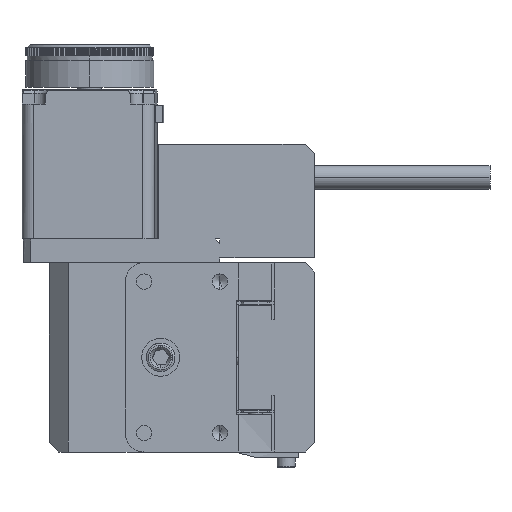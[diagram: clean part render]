
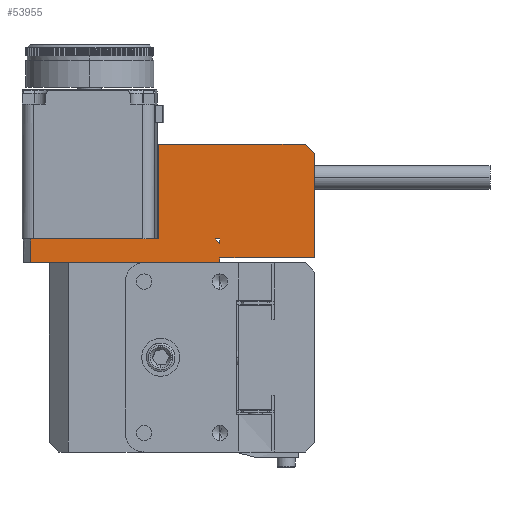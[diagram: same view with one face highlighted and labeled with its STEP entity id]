
A CAD part, front view. The second image highlights one B-rep face of the part: STEP entity #53955.
In plain terms, the highlighted planar face has unit normal (0, -1, 0).
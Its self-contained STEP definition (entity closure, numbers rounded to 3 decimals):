
#11598 = CARTESIAN_POINT ( 'NONE',  ( -23.855, 0.932, 45. ) ) ;
#12141 = CARTESIAN_POINT ( 'NONE',  ( -11.296, 0.932, 45. ) ) ;
#12597 = CARTESIAN_POINT ( 'NONE',  ( -36.172, 0.932, 45. ) ) ;
#12644 = DIRECTION ( 'NONE',  ( 1., 0., 0. ) ) ;
#12645 = VECTOR ( 'NONE', #12644, 1000. ) ;
#12646 = CARTESIAN_POINT ( 'NONE',  ( 7.328, 0.932, 45. ) ) ;
#12647 = LINE ( 'NONE', #12646, #12645 ) ;
#12666 = CARTESIAN_POINT ( 'NONE',  ( 2.828, 0.932, 45. ) ) ;
#12667 = DIRECTION ( 'NONE',  ( -1., 0., 0. ) ) ;
#12668 = VECTOR ( 'NONE', #12667, 1000. ) ;
#12669 = CARTESIAN_POINT ( 'NONE',  ( 7.328, 0.932, 45. ) ) ;
#12670 = LINE ( 'NONE', #12669, #12668 ) ;
#12687 = CARTESIAN_POINT ( 'NONE',  ( 3.828, 0.932, 44. ) ) ;
#12688 = CARTESIAN_POINT ( 'NONE',  ( 3.828, 0.932, 45. ) ) ;
#12694 = DIRECTION ( 'NONE',  ( 0., 0., 1. ) ) ;
#12695 = VECTOR ( 'NONE', #12694, 1000. ) ;
#12696 = CARTESIAN_POINT ( 'NONE',  ( 3.828, 0.932, 53. ) ) ;
#12697 = LINE ( 'NONE', #12696, #12695 ) ;
#12709 = DIRECTION ( 'NONE',  ( 1., 0., 0. ) ) ;
#12710 = VECTOR ( 'NONE', #12709, 1000. ) ;
#12711 = CARTESIAN_POINT ( 'NONE',  ( 7.328, 0.932, 45. ) ) ;
#12712 = LINE ( 'NONE', #12711, #12710 ) ;
#12977 = DIRECTION ( 'NONE',  ( 0., 0., 1. ) ) ;
#12978 = VECTOR ( 'NONE', #12977, 1000. ) ;
#12979 = CARTESIAN_POINT ( 'NONE',  ( -36.172, 0.932, 53. ) ) ;
#12980 = LINE ( 'NONE', #12979, #12978 ) ;
#12981 = CARTESIAN_POINT ( 'NONE',  ( -36.172, 0.932, 40. ) ) ;
#13109 = CARTESIAN_POINT ( 'NONE',  ( -9.172, 0.932, 45. ) ) ;
#13110 = DIRECTION ( 'NONE',  ( 1., 0., 0. ) ) ;
#13111 = VECTOR ( 'NONE', #13110, 1000. ) ;
#13112 = CARTESIAN_POINT ( 'NONE',  ( 7.328, 0.932, 45. ) ) ;
#13118 = LINE ( 'NONE', #13112, #13111 ) ;
#13347 = DIRECTION ( 'NONE',  ( 0., 0., 1. ) ) ;
#13348 = DIRECTION ( 'NONE',  ( 0., 1., 0. ) ) ;
#13349 = CARTESIAN_POINT ( 'NONE',  ( 7.328, 0.932, 53. ) ) ;
#13350 = AXIS2_PLACEMENT_3D ( 'NONE', #13349, #13348, #13347 ) ;
#13351 = PLANE ( 'NONE',  #13350 ) ;
#13352 = FACE_OUTER_BOUND ( 'NONE', #53967, .T. ) ;
#13353 = FACE_BOUND ( 'NONE', #53956, .T. ) ;
#13354 = DIRECTION ( 'NONE',  ( 0., 0., -1. ) ) ;
#13355 = VECTOR ( 'NONE', #13354, 1000. ) ;
#13356 = CARTESIAN_POINT ( 'NONE',  ( 3.828, 0.932, 53. ) ) ;
#13357 = LINE ( 'NONE', #13356, #13355 ) ;
#13358 = CARTESIAN_POINT ( 'NONE',  ( 3.828, 0.932, 41. ) ) ;
#13393 = CARTESIAN_POINT ( 'NONE',  ( 23.828, 0.932, 63. ) ) ;
#13394 = DIRECTION ( 'NONE',  ( 0.707, 0., -0.707 ) ) ;
#13395 = VECTOR ( 'NONE', #13394, 1000. ) ;
#13396 = CARTESIAN_POINT ( 'NONE',  ( 3.328, 0.932, 44.5 ) ) ;
#13397 = LINE ( 'NONE', #13396, #13395 ) ;
#13414 = DIRECTION ( 'NONE',  ( -1., 0., 0. ) ) ;
#13415 = VECTOR ( 'NONE', #13414, 1000. ) ;
#13416 = CARTESIAN_POINT ( 'NONE',  ( -9.172, 0.932, 41. ) ) ;
#13417 = LINE ( 'NONE', #13416, #13415 ) ;
#13434 = CARTESIAN_POINT ( 'NONE',  ( -9.172, 0.932, 65. ) ) ;
#13439 = DIRECTION ( 'NONE',  ( 1., 0., 0. ) ) ;
#13440 = VECTOR ( 'NONE', #13439, 1000. ) ;
#13441 = CARTESIAN_POINT ( 'NONE',  ( 23.828, 0.932, 65. ) ) ;
#13442 = LINE ( 'NONE', #13441, #13440 ) ;
#13443 = CARTESIAN_POINT ( 'NONE',  ( 21.828, 0.932, 65. ) ) ;
#13444 = DIRECTION ( 'NONE',  ( 0.707, 0., -0.707 ) ) ;
#13445 = VECTOR ( 'NONE', #13444, 1000. ) ;
#13446 = CARTESIAN_POINT ( 'NONE',  ( 22.828, 0.932, 64. ) ) ;
#13447 = LINE ( 'NONE', #13446, #13445 ) ;
#13458 = CARTESIAN_POINT ( 'NONE',  ( 23.828, 0.932, 41. ) ) ;
#13459 = DIRECTION ( 'NONE',  ( 0., 0., -1. ) ) ;
#13460 = VECTOR ( 'NONE', #13459, 1000. ) ;
#13461 = CARTESIAN_POINT ( 'NONE',  ( 23.828, 0.932, 41. ) ) ;
#13462 = LINE ( 'NONE', #13461, #13460 ) ;
#13479 = DIRECTION ( 'NONE',  ( 0., 0., 1. ) ) ;
#13480 = VECTOR ( 'NONE', #13479, 1000. ) ;
#13481 = CARTESIAN_POINT ( 'NONE',  ( -9.172, 0.932, 65. ) ) ;
#13482 = LINE ( 'NONE', #13481, #13480 ) ;
#13568 = DIRECTION ( 'NONE',  ( 1., 0., 0. ) ) ;
#13569 = VECTOR ( 'NONE', #13568, 1000. ) ;
#13570 = CARTESIAN_POINT ( 'NONE',  ( -16.922, 0.932, 40. ) ) ;
#13571 = LINE ( 'NONE', #13570, #13569 ) ;
#22879 = CARTESIAN_POINT ( 'NONE',  ( -8.172, 0.932, 40. ) ) ;
#22881 = CARTESIAN_POINT ( 'NONE',  ( 3.828, 0.932, 40. ) ) ;
#22885 = LINE ( 'NONE', #22887, #22886 ) ;
#22886 = VECTOR ( 'NONE', #22912, 1000. ) ;
#22887 = CARTESIAN_POINT ( 'NONE',  ( 7.828, 0.932, 40. ) ) ;
#22912 = DIRECTION ( 'NONE',  ( -1., 0., 0. ) ) ;
#52849 = VERTEX_POINT ( 'NONE', #11598 ) ;
#53177 = VERTEX_POINT ( 'NONE', #12141 ) ;
#53505 = VERTEX_POINT ( 'NONE', #12597 ) ;
#53509 = EDGE_CURVE ( 'NONE', #53505, #52849, #12647, .T. ) ;
#53546 = EDGE_CURVE ( 'NONE', #53572, #53547, #12670, .T. ) ;
#53547 = VERTEX_POINT ( 'NONE', #12666 ) ;
#53561 = EDGE_CURVE ( 'NONE', #52849, #53177, #12712, .T. ) ;
#53568 = EDGE_CURVE ( 'NONE', #53570, #53572, #12697, .T. ) ;
#53570 = VERTEX_POINT ( 'NONE', #12687 ) ;
#53572 = VERTEX_POINT ( 'NONE', #12688 ) ;
#53733 = VERTEX_POINT ( 'NONE', #12981 ) ;
#53736 = EDGE_CURVE ( 'NONE', #53733, #53505, #12980, .T. ) ;
#53798 = EDGE_CURVE ( 'NONE', #53177, #53800, #13118, .T. ) ;
#53800 = VERTEX_POINT ( 'NONE', #13109 ) ;
#53950 = VERTEX_POINT ( 'NONE', #13358 ) ;
#53953 = EDGE_CURVE ( 'NONE', #53950, #57821, #13357, .T. ) ;
#53955 = ADVANCED_FACE ( 'NONE', ( #13353, #13352 ), #13351, .F. ) ;
#53956 = EDGE_LOOP ( 'NONE', ( #53958, #53961, #53963 ) ) ;
#53958 = ORIENTED_EDGE ( 'NONE', *, *, #53546, .F. ) ;
#53961 = ORIENTED_EDGE ( 'NONE', *, *, #53568, .F. ) ;
#53963 = ORIENTED_EDGE ( 'NONE', *, *, #53965, .F. ) ;
#53965 = EDGE_CURVE ( 'NONE', #53547, #53570, #13397, .T. ) ;
#53967 = EDGE_LOOP ( 'NONE', ( #54000, #54007, #54012, #54019, #54023, #54025, #54060, #54062, #54066, #54069, #53988, #53990 ) ) ;
#53968 = VERTEX_POINT ( 'NONE', #13393 ) ;
#53988 = ORIENTED_EDGE ( 'NONE', *, *, #53953, .F. ) ;
#53990 = ORIENTED_EDGE ( 'NONE', *, *, #53992, .F. ) ;
#53992 = EDGE_CURVE ( 'NONE', #54004, #53950, #13417, .T. ) ;
#54000 = ORIENTED_EDGE ( 'NONE', *, *, #54002, .F. ) ;
#54002 = EDGE_CURVE ( 'NONE', #53968, #54004, #13462, .T. ) ;
#54004 = VERTEX_POINT ( 'NONE', #13458 ) ;
#54007 = ORIENTED_EDGE ( 'NONE', *, *, #54009, .F. ) ;
#54009 = EDGE_CURVE ( 'NONE', #54010, #53968, #13447, .T. ) ;
#54010 = VERTEX_POINT ( 'NONE', #13443 ) ;
#54012 = ORIENTED_EDGE ( 'NONE', *, *, #54014, .F. ) ;
#54014 = EDGE_CURVE ( 'NONE', #54016, #54010, #13442, .T. ) ;
#54016 = VERTEX_POINT ( 'NONE', #13434 ) ;
#54019 = ORIENTED_EDGE ( 'NONE', *, *, #54020, .F. ) ;
#54020 = EDGE_CURVE ( 'NONE', #53800, #54016, #13482, .T. ) ;
#54023 = ORIENTED_EDGE ( 'NONE', *, *, #53798, .F. ) ;
#54025 = ORIENTED_EDGE ( 'NONE', *, *, #53561, .F. ) ;
#54060 = ORIENTED_EDGE ( 'NONE', *, *, #53509, .F. ) ;
#54062 = ORIENTED_EDGE ( 'NONE', *, *, #53736, .F. ) ;
#54066 = ORIENTED_EDGE ( 'NONE', *, *, #54067, .T. ) ;
#54067 = EDGE_CURVE ( 'NONE', #53733, #57822, #13571, .T. ) ;
#54069 = ORIENTED_EDGE ( 'NONE', *, *, #57829, .F. ) ;
#57821 = VERTEX_POINT ( 'NONE', #22881 ) ;
#57822 = VERTEX_POINT ( 'NONE', #22879 ) ;
#57829 = EDGE_CURVE ( 'NONE', #57821, #57822, #22885, .T. ) ;
